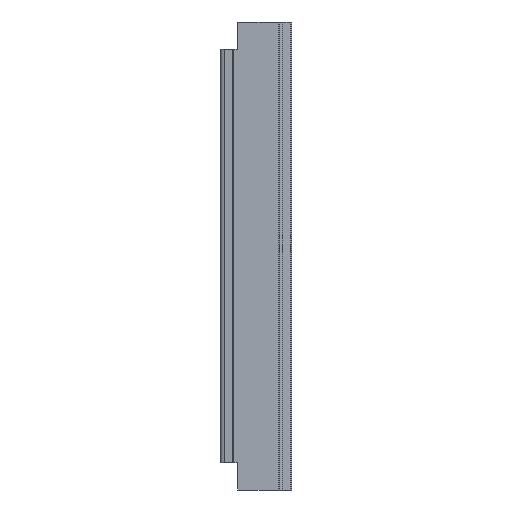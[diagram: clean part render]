
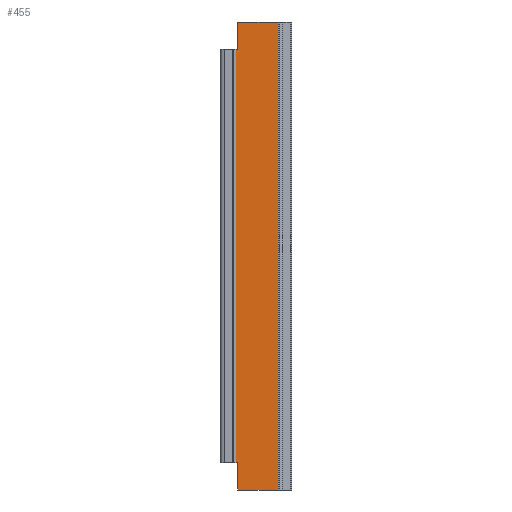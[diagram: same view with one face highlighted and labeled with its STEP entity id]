
A CAD part, left-side view. The second image highlights one B-rep face of the part: STEP entity #455.
In plain terms, the highlighted planar face has unit normal (-1, 0, 0).
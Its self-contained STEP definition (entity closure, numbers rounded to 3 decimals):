
#42 = EDGE_CURVE ( 'NONE', #1273, #1313, #668, .T. ) ;
#61 = EDGE_CURVE ( 'NONE', #1323, #1268, #705, .T. ) ;
#219 = EDGE_LOOP ( 'NONE', ( #945, #941, #920, #919, #918, #917, #916, #915 ) ) ;
#286 = CARTESIAN_POINT ( 'NONE',  ( -2.8, -72.063, 628. ) ) ;
#293 = DIRECTION ( 'NONE',  ( 0., 0., 1. ) ) ;
#335 = CARTESIAN_POINT ( 'NONE',  ( -2.8, -14.928, 628. ) ) ;
#336 = DIRECTION ( 'NONE',  ( 0., 0., -1. ) ) ;
#339 = CARTESIAN_POINT ( 'NONE',  ( -2.8, -17.7, 628. ) ) ;
#340 = DIRECTION ( 'NONE',  ( 0., 0., -1. ) ) ;
#341 = CARTESIAN_POINT ( 'NONE',  ( -2.8, -14.555, 591.5 ) ) ;
#342 = DIRECTION ( 'NONE',  ( 0., 1., 0. ) ) ;
#343 = CARTESIAN_POINT ( 'NONE',  ( -2.8, -17.7, 628. ) ) ;
#344 = DIRECTION ( 'NONE',  ( 0., 0., -1. ) ) ;
#345 = CARTESIAN_POINT ( 'NONE',  ( -2.8, -14.555, 36.5 ) ) ;
#346 = DIRECTION ( 'NONE',  ( 0., -1., 0. ) ) ;
#371 = CARTESIAN_POINT ( 'NONE',  ( -2.8, -72.063, 0. ) ) ;
#376 = CARTESIAN_POINT ( 'NONE',  ( -2.8, -17.7, 628. ) ) ;
#386 = CARTESIAN_POINT ( 'NONE',  ( -2.8, -14.928, 591.5 ) ) ;
#387 = CARTESIAN_POINT ( 'NONE',  ( -2.8, -14.928, 36.5 ) ) ;
#390 = CARTESIAN_POINT ( 'NONE',  ( -2.8, -17.7, 591.5 ) ) ;
#391 = CARTESIAN_POINT ( 'NONE',  ( -2.8, -17.7, 36.5 ) ) ;
#414 = CARTESIAN_POINT ( 'NONE',  ( -2.8, -72.063, 628. ) ) ;
#424 = CARTESIAN_POINT ( 'NONE',  ( -2.8, -17.7, 0. ) ) ;
#455 = ADVANCED_FACE ( 'NONE', ( #732 ), #1065, .F. ) ;
#529 = EDGE_CURVE ( 'NONE', #1268, #1313, #835, .T. ) ;
#548 = EDGE_CURVE ( 'NONE', #1283, #1284, #879, .T. ) ;
#550 = EDGE_CURVE ( 'NONE', #1288, #1323, #883, .T. ) ;
#551 = EDGE_CURVE ( 'NONE', #1287, #1283, #885, .T. ) ;
#552 = EDGE_CURVE ( 'NONE', #1273, #1287, #887, .T. ) ;
#553 = EDGE_CURVE ( 'NONE', #1284, #1288, #889, .T. ) ;
#584 = AXIS2_PLACEMENT_3D ( 'NONE', #1068, #1074, #1075 ) ;
#661 = VECTOR ( 'NONE', #971, 1000. ) ;
#668 = LINE ( 'NONE', #965, #661 ) ;
#705 = LINE ( 'NONE', #1010, #706 ) ;
#706 = VECTOR ( 'NONE', #1011, 1000. ) ;
#732 = FACE_OUTER_BOUND ( 'NONE', #219, .T. ) ;
#835 = LINE ( 'NONE', #286, #845 ) ;
#845 = VECTOR ( 'NONE', #293, 1000. ) ;
#879 = LINE ( 'NONE', #335, #880 ) ;
#880 = VECTOR ( 'NONE', #336, 1000. ) ;
#883 = LINE ( 'NONE', #339, #884 ) ;
#884 = VECTOR ( 'NONE', #340, 1000. ) ;
#885 = LINE ( 'NONE', #341, #886 ) ;
#886 = VECTOR ( 'NONE', #342, 1000. ) ;
#887 = LINE ( 'NONE', #343, #888 ) ;
#888 = VECTOR ( 'NONE', #344, 1000. ) ;
#889 = LINE ( 'NONE', #345, #890 ) ;
#890 = VECTOR ( 'NONE', #346, 1000. ) ;
#915 = ORIENTED_EDGE ( 'NONE', *, *, #42, .F. ) ;
#916 = ORIENTED_EDGE ( 'NONE', *, *, #529, .T. ) ;
#917 = ORIENTED_EDGE ( 'NONE', *, *, #61, .T. ) ;
#918 = ORIENTED_EDGE ( 'NONE', *, *, #550, .T. ) ;
#919 = ORIENTED_EDGE ( 'NONE', *, *, #553, .T. ) ;
#920 = ORIENTED_EDGE ( 'NONE', *, *, #548, .T. ) ;
#941 = ORIENTED_EDGE ( 'NONE', *, *, #551, .T. ) ;
#945 = ORIENTED_EDGE ( 'NONE', *, *, #552, .T. ) ;
#965 = CARTESIAN_POINT ( 'NONE',  ( -2.8, -14.555, 628. ) ) ;
#971 = DIRECTION ( 'NONE',  ( 0., -1., 0. ) ) ;
#1010 = CARTESIAN_POINT ( 'NONE',  ( -2.8, -14.555, 0. ) ) ;
#1011 = DIRECTION ( 'NONE',  ( 0., -1., 0. ) ) ;
#1065 = PLANE ( 'NONE',  #584 ) ;
#1068 = CARTESIAN_POINT ( 'NONE',  ( -2.8, -14.555, 628. ) ) ;
#1074 = DIRECTION ( 'NONE',  ( 1., 0., 0. ) ) ;
#1075 = DIRECTION ( 'NONE',  ( 0., 1., 0. ) ) ;
#1268 = VERTEX_POINT ( 'NONE', #371 ) ;
#1273 = VERTEX_POINT ( 'NONE', #376 ) ;
#1283 = VERTEX_POINT ( 'NONE', #386 ) ;
#1284 = VERTEX_POINT ( 'NONE', #387 ) ;
#1287 = VERTEX_POINT ( 'NONE', #390 ) ;
#1288 = VERTEX_POINT ( 'NONE', #391 ) ;
#1313 = VERTEX_POINT ( 'NONE', #414 ) ;
#1323 = VERTEX_POINT ( 'NONE', #424 ) ;
